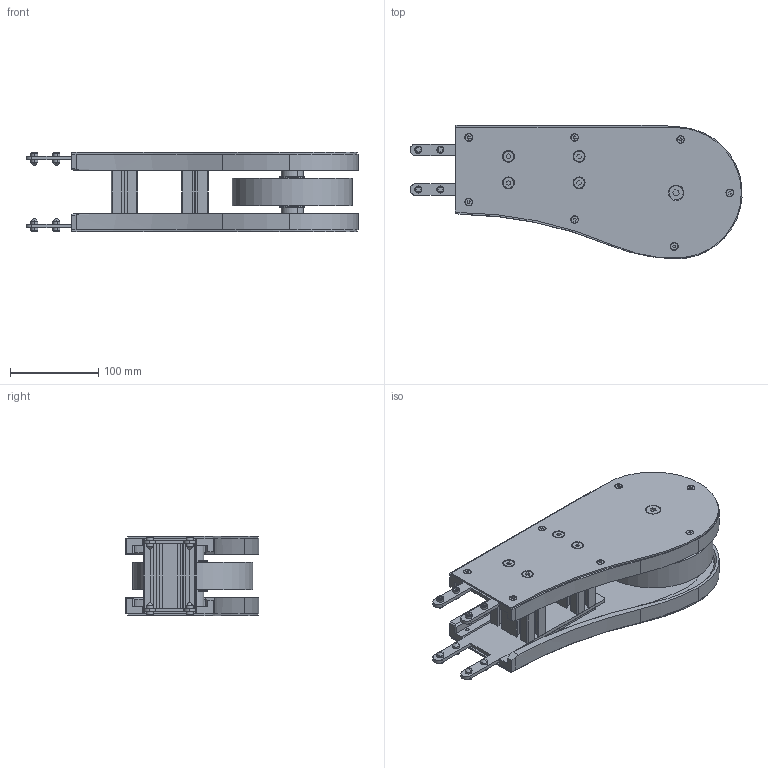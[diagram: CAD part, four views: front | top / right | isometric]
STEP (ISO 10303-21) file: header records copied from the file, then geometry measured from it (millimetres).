
FILE_DESCRIPTION (( 'STEP AP214' ), '1' );
FILE_NAME ('2000.325.200S.STEP', '2021-06-18T07:47:47', ( 'Localadmin' ), ( 'Microsoft' ), 'SwSTEP 2.0', 'SolidWorks 2018', '' );
FILE_SCHEMA (( 'AUTOMOTIVE_DESIGN' ));
Length unit declared in the file: millimetre
Products named in the file (15): 2000.001.225; 2000.001.221; 2000.001.220; 2000.325.200S; Circlip DIN 471 - 25 x 1.2_Circlip DIN 471 - 25 x 1.2; VITI TSEI UNI 5933 INOX_0820UNI5933A2; VITI TSEI UNI 5933 INOX_0620UNI5933A2; VITI TSEI UNI 5933 INOX_0410UNI5933A2; GRANI A PUNTA CONICA UNI 5927 INOX_M8x14 UNI 5927 INOX; 2000.001.223; 2000.325.206S; 2000.325.001_Default<Lavorato>; 2000.001.001; 2000.001.224; 2000.001.222
Assembly tree (46 placements, depth 2):
  2000.325.200S
    2000.001.220
    2000.001.221
    2000.001.225
    2000.001.222
    2000.001.224  x2
    2000.001.001  x2
    2000.325.001_Default<Lavorato>  x2
    2000.325.206S
    2000.001.223
    GRANI A PUNTA CONICA UNI 5927 INOX_M8x14 UNI 5927 INOX  x8
    VITI TSEI UNI 5933 INOX_0410UNI5933A2  x14
    VITI TSEI UNI 5933 INOX_0620UNI5933A2  x8
    VITI TSEI UNI 5933 INOX_0820UNI5933A2  x2
    Circlip DIN 471 - 25 x 1.2_Circlip DIN 471 - 25 x 1.2  x2
Bounding box: 376.08 x 151.5 x 90 mm (x, y, z)
Volume: 1183300 mm3; surface area: 496993.8 mm2
Topology: 46 solids, 46 shells, 1148 faces, 2862 edges, 1840 vertices
Faces by surface type: plane 580, cylinder 372, cone 196
Entity records: 16231 total; most frequent: DIRECTION 2803, CARTESIAN_POINT 2643, ORIENTED_EDGE 2538, EDGE_CURVE 1269, AXIS2_PLACEMENT_3D 1016, VERTEX_POINT 832, LINE 771, VECTOR 771
